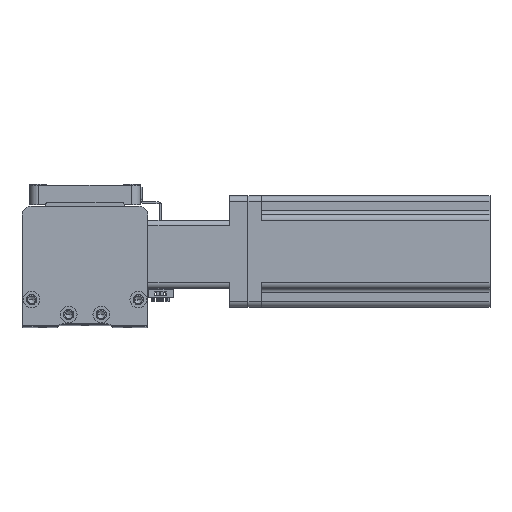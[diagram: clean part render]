
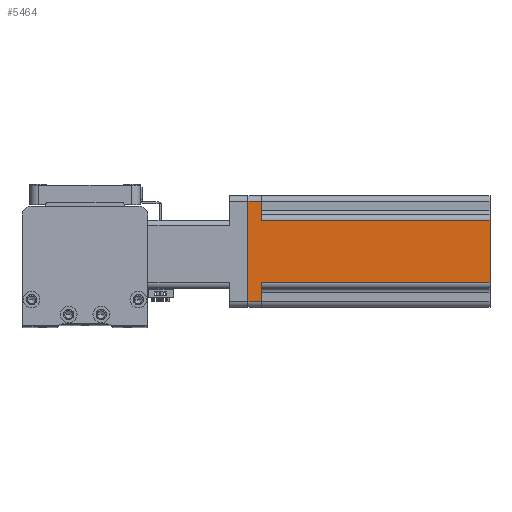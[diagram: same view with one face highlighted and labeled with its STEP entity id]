
A CAD part, top view. The second image highlights one B-rep face of the part: STEP entity #5464.
In plain terms, the highlighted planar face has unit normal (0, 0, 1) as drawn and (1, 0, 0) by its records, which use the part's own axes.
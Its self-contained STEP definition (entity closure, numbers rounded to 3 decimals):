
#533 = VECTOR ( 'NONE', #17111, 1000. ) ;
#3006 = VECTOR ( 'NONE', #37772, 1000. ) ;
#4284 = LINE ( 'NONE', #25200, #29437 ) ;
#4544 = CARTESIAN_POINT ( 'NONE',  ( 30., 27., 130.7 ) ) ;
#5201 = VECTOR ( 'NONE', #33600, 1000. ) ;
#5464 = ADVANCED_FACE ( 'NONE', ( #33032 ), #11397, .F. ) ;
#5925 = EDGE_CURVE ( 'NONE', #35461, #34949, #39072, .T. ) ;
#6463 = EDGE_CURVE ( 'NONE', #30712, #25155, #36447, .T. ) ;
#7244 = EDGE_CURVE ( 'NONE', #24847, #35830, #13781, .T. ) ;
#7326 = CARTESIAN_POINT ( 'NONE',  ( 30., -27., 130.7 ) ) ;
#7353 = VECTOR ( 'NONE', #13600, 1000. ) ;
#7370 = ORIENTED_EDGE ( 'NONE', *, *, #6463, .T. ) ;
#9561 = CARTESIAN_POINT ( 'NONE',  ( 30., 17., 7.5 ) ) ;
#10917 = EDGE_CURVE ( 'NONE', #14223, #12847, #25749, .T. ) ;
#11397 = PLANE ( 'NONE',  #39842 ) ;
#11576 = EDGE_CURVE ( 'NONE', #24847, #12847, #21981, .T. ) ;
#12566 = CARTESIAN_POINT ( 'NONE',  ( 30., -17., 7.5 ) ) ;
#12755 = ORIENTED_EDGE ( 'NONE', *, *, #10917, .T. ) ;
#12847 = VERTEX_POINT ( 'NONE', #35122 ) ;
#13248 = EDGE_CURVE ( 'NONE', #25155, #14223, #36816, .T. ) ;
#13600 = DIRECTION ( 'NONE',  ( 0., -1., 0. ) ) ;
#13781 = LINE ( 'NONE', #17245, #38884 ) ;
#14223 = VERTEX_POINT ( 'NONE', #29652 ) ;
#14719 = DIRECTION ( 'NONE',  ( -1., 0., 0. ) ) ;
#14839 = CARTESIAN_POINT ( 'NONE',  ( 30., -27., 0. ) ) ;
#15024 = EDGE_CURVE ( 'NONE', #35461, #35830, #4284, .T. ) ;
#17014 = VECTOR ( 'NONE', #24273, 1000. ) ;
#17111 = DIRECTION ( 'NONE',  ( 0., 0., -1. ) ) ;
#17245 = CARTESIAN_POINT ( 'NONE',  ( 30., 17., 130.7 ) ) ;
#18144 = LINE ( 'NONE', #33272, #7353 ) ;
#18432 = ORIENTED_EDGE ( 'NONE', *, *, #5925, .T. ) ;
#18558 = CARTESIAN_POINT ( 'NONE',  ( 30., 30., 7.5 ) ) ;
#20535 = ORIENTED_EDGE ( 'NONE', *, *, #11576, .F. ) ;
#21981 = LINE ( 'NONE', #18558, #29671 ) ;
#21996 = DIRECTION ( 'NONE',  ( 0., 1., 0. ) ) ;
#24273 = DIRECTION ( 'NONE',  ( 0., 0., 1. ) ) ;
#24847 = VERTEX_POINT ( 'NONE', #9561 ) ;
#25155 = VERTEX_POINT ( 'NONE', #14839 ) ;
#25200 = CARTESIAN_POINT ( 'NONE',  ( 30., -30., 130.7 ) ) ;
#25749 = LINE ( 'NONE', #4544, #17014 ) ;
#28576 = ORIENTED_EDGE ( 'NONE', *, *, #15024, .F. ) ;
#28696 = EDGE_CURVE ( 'NONE', #34949, #30712, #18144, .T. ) ;
#29437 = VECTOR ( 'NONE', #21996, 1000. ) ;
#29652 = CARTESIAN_POINT ( 'NONE',  ( 30., 27., 0. ) ) ;
#29671 = VECTOR ( 'NONE', #41488, 1000. ) ;
#30231 = CARTESIAN_POINT ( 'NONE',  ( 30., -27., 7.5 ) ) ;
#30260 = CARTESIAN_POINT ( 'NONE',  ( 30., -17., 7.5 ) ) ;
#30712 = VERTEX_POINT ( 'NONE', #30231 ) ;
#31429 = CARTESIAN_POINT ( 'NONE',  ( 30., 17., 130.7 ) ) ;
#33032 = FACE_OUTER_BOUND ( 'NONE', #39715, .T. ) ;
#33272 = CARTESIAN_POINT ( 'NONE',  ( 30., -30., 7.5 ) ) ;
#33600 = DIRECTION ( 'NONE',  ( 0., 0., -1. ) ) ;
#33840 = DIRECTION ( 'NONE',  ( 0., 0., 1. ) ) ;
#34348 = CARTESIAN_POINT ( 'NONE',  ( 30., -30., 130.7 ) ) ;
#34949 = VERTEX_POINT ( 'NONE', #12566 ) ;
#35122 = CARTESIAN_POINT ( 'NONE',  ( 30., 27., 7.5 ) ) ;
#35461 = VERTEX_POINT ( 'NONE', #39196 ) ;
#35830 = VERTEX_POINT ( 'NONE', #31429 ) ;
#36447 = LINE ( 'NONE', #7326, #533 ) ;
#36816 = LINE ( 'NONE', #41249, #3006 ) ;
#37607 = DIRECTION ( 'NONE',  ( 0., 0., 1. ) ) ;
#37772 = DIRECTION ( 'NONE',  ( 0., 1., 0. ) ) ;
#38884 = VECTOR ( 'NONE', #33840, 1000. ) ;
#39072 = LINE ( 'NONE', #30260, #5201 ) ;
#39168 = ORIENTED_EDGE ( 'NONE', *, *, #13248, .T. ) ;
#39196 = CARTESIAN_POINT ( 'NONE',  ( 30., -17., 130.7 ) ) ;
#39715 = EDGE_LOOP ( 'NONE', ( #28576, #18432, #41292, #7370, #39168, #12755, #20535, #42020 ) ) ;
#39842 = AXIS2_PLACEMENT_3D ( 'NONE', #34348, #14719, #37607 ) ;
#41249 = CARTESIAN_POINT ( 'NONE',  ( 30., -30., 0. ) ) ;
#41292 = ORIENTED_EDGE ( 'NONE', *, *, #28696, .T. ) ;
#41488 = DIRECTION ( 'NONE',  ( 0., 1., 0. ) ) ;
#42020 = ORIENTED_EDGE ( 'NONE', *, *, #7244, .T. ) ;
